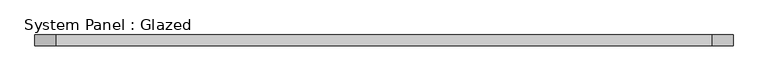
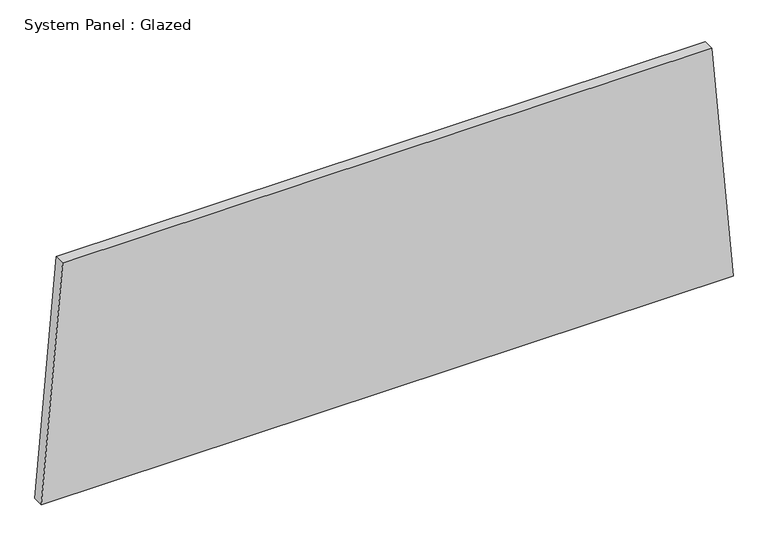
"""IFC4 building model written with IfcOpenShell, lengths in millimetres: plate geometry, System Panel : Glazed."""

from ifc_helpers import new_model, si_unit, frame, origin, place, context, project, spatial, polyline, outline, extrude, source, transform, mapped, element, save


def system_panel_glazed_45ca7c27(model_context):
    return source(origin(), model_context, "Body", "SweptSolid", [
        extrude(outline(polyline([(0.0, -810.6229011), (0.0, 810.6229011), (581.9568348, 760.5601087), (581.9568348, -760.5601087), (0.0, -810.6229011)])), frame((0.0, 19.05, 0.0), z_axis=(0.0, 1.0, 0.0), x_axis=(0.0, 0.0, 1.0)), (0.0, 0.0, 1.0), 25.4),
    ])


if __name__ == "__main__":
    model = new_model("IFC4")
    model_context = context("Model", 3, world=origin())
    ifc_project = project(units=[si_unit("LENGTHUNIT", "METRE", prefix="MILLI")], contexts=[model_context])
    site = spatial("IfcSite", under=ifc_project)
    building = spatial("IfcBuilding", under=site)
    placement = place(None, origin())
    system_panel_glazed_shape = system_panel_glazed_45ca7c27(model_context)
    element("IfcPlate", 1, ObjectType="System Panel : Glazed", at=placement, inside=building, context=model_context, shape_type="MappedRepresentation", body=[
        mapped(system_panel_glazed_shape, transform((0.0, 0.0, 0.0), x_axis=(1.0, 0.0, 0.0), y_axis=(0.0, 1.0, 0.0), z_axis=(0.0, 0.0, 1.0))),
    ])
    save(model, "model.ifc")
